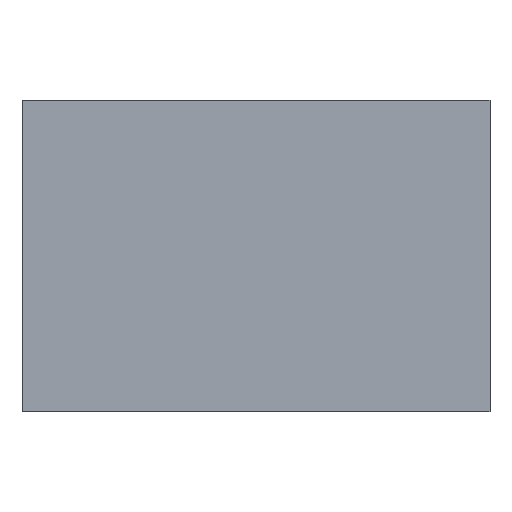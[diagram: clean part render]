
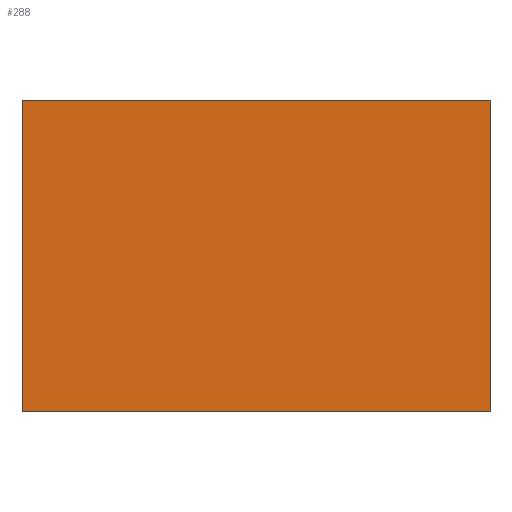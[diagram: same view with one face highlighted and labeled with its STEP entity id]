
A CAD part, front view. The second image highlights one B-rep face of the part: STEP entity #288.
In plain terms, the highlighted planar face has unit normal (0, -1, 0).
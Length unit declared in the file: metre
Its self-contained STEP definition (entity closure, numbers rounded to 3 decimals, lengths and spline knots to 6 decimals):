
#12=LINE('',#473,#24);
#13=LINE('',#476,#25);
#14=LINE('',#478,#26);
#15=LINE('',#480,#27);
#24=VECTOR('',#379,1.);
#25=VECTOR('',#380,1.);
#26=VECTOR('',#381,1.);
#27=VECTOR('',#382,1.);
#36=PLANE('',#325);
#56=ORIENTED_EDGE('',*,*,#128,.T.);
#57=ORIENTED_EDGE('',*,*,#129,.F.);
#58=ORIENTED_EDGE('',*,*,#130,.F.);
#59=ORIENTED_EDGE('',*,*,#131,.T.);
#128=EDGE_CURVE('',#164,#165,#12,.T.);
#129=EDGE_CURVE('',#166,#165,#13,.T.);
#130=EDGE_CURVE('',#167,#166,#14,.T.);
#131=EDGE_CURVE('',#167,#164,#15,.T.);
#164=VERTEX_POINT('',#474);
#165=VERTEX_POINT('',#475);
#166=VERTEX_POINT('',#477);
#167=VERTEX_POINT('',#479);
#202=EDGE_LOOP('',(#56,#57,#58,#59));
#240=FACE_BOUND('',#202,.T.);
#288=ADVANCED_FACE('',(#240),#36,.F.);
#325=AXIS2_PLACEMENT_3D('',#472,#377,#378);
#377=DIRECTION('',(0.,1.,0.));
#378=DIRECTION('',(-1.,0.,0.));
#379=DIRECTION('',(-1.,0.,0.));
#380=DIRECTION('',(0.,0.,1.));
#381=DIRECTION('',(-1.,0.,0.));
#382=DIRECTION('',(0.,0.,1.));
#472=CARTESIAN_POINT('',(-0.010097,0.139797,-0.0126));
#473=CARTESIAN_POINT('',(-0.010097,0.139797,0.0474));
#474=CARTESIAN_POINT('',(0.015903,0.139797,0.0474));
#475=CARTESIAN_POINT('',(-0.074097,0.139797,0.0474));
#476=CARTESIAN_POINT('',(-0.074097,0.139797,-0.0126));
#477=CARTESIAN_POINT('',(-0.074097,0.139797,-0.0126));
#478=CARTESIAN_POINT('',(-0.010097,0.139797,-0.0126));
#479=CARTESIAN_POINT('',(0.015903,0.139797,-0.0126));
#480=CARTESIAN_POINT('',(0.015903,0.139797,-0.0126));
